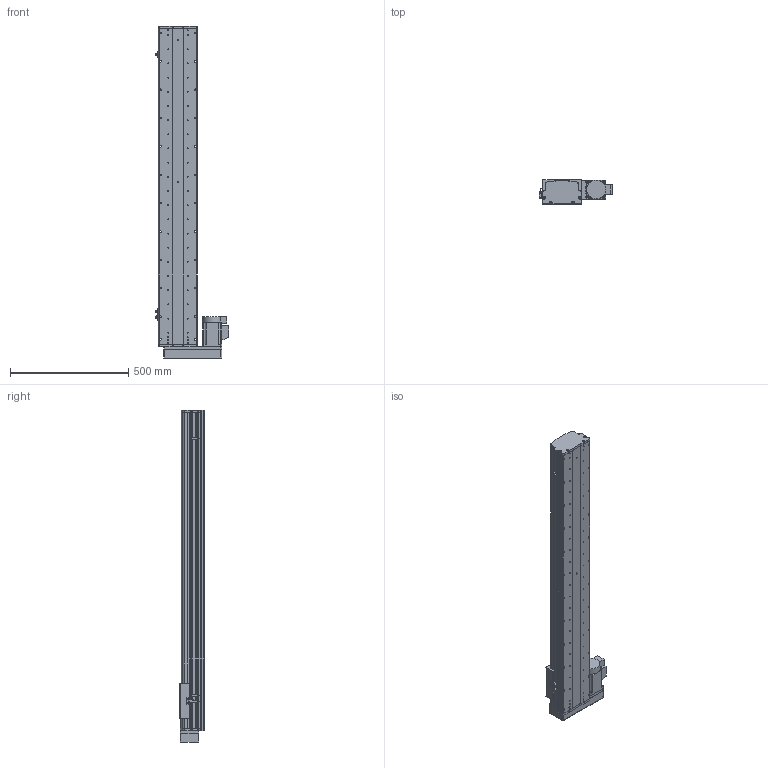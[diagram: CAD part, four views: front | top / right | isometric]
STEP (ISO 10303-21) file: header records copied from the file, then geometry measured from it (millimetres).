
FILE_DESCRIPTION (( 'STEP AP214' ), '1' );
FILE_NAME ('KSD165S-S1100-ML-CM .STEP', '2017-10-17T09:10:07', ( '微软用户' ), ( '微软中国' ), 'SwSTEP 2.0', 'SolidWorks 2014', '' );
FILE_SCHEMA (( 'AUTOMOTIVE_DESIGN' ));
Length unit declared in the file: millimetre
Products named in the file (16): 覜茼え68遵圉猾敕; U倰嫖萇EEㄜSX672; 拸秶雄ん750W侜督萇儂; KSD165模组-丝杆上下左右折前端板; HTPA26S5M250-A-H8丝杆用(内径14）; HTPA26S5M250-A-H8 750W萇儂蚚; 165宽模组马达安装板连板左右折丝杆; 165宽模组保护罩左右折; KSD165模组-防尘盖1-1100行程-最新版; KSD165模组底板-1100行程-最新; KSD165耀郪-佪裝-滅袉菜-3 -; KSD165耀郪-佪裝-滅袉菜-1; U倰嫖萇假蚾璃; KSD165耀郪-綴傷啣1; KSD165模组-丝杆滑动座-最新版; KSD165S-S1100-ML-CM 
Assembly tree (19 placements, depth 2):
  KSD165S-S1100-ML-CM 
    KSD165模组-丝杆滑动座-最新版
    KSD165耀郪-綴傷啣1
    U倰嫖萇假蚾璃  x3
    KSD165耀郪-佪裝-滅袉菜-1
    KSD165耀郪-佪裝-滅袉菜-3 -
    KSD165模组底板-1100行程-最新
    KSD165模组-防尘盖1-1100行程-最新版
    165宽模组保护罩左右折
    165宽模组马达安装板连板左右折丝杆
    HTPA26S5M250-A-H8 750W萇儂蚚
    HTPA26S5M250-A-H8丝杆用(内径14）
    KSD165模组-丝杆上下左右折前端板
    拸秶雄ん750W侜督萇儂
    U倰嫖萇EEㄜSX672  x3
    覜茼え68遵圉猾敕
Bounding box: 311.2 x 104 x 1405.5 mm (x, y, z)
Volume: 8319543.6 mm3; surface area: 1935784.9 mm2
Topology: 20 solids, 20 shells, 1881 faces, 5348 edges, 3499 vertices
Faces by surface type: cylinder 1231, plane 549, cone 101
Entity records: 62323 total; most frequent: CARTESIAN_POINT 13003, DIRECTION 10015, ORIENTED_EDGE 9384, EDGE_CURVE 4692, AXIS2_PLACEMENT_3D 3935, VERTEX_POINT 3091, CIRCLE 2252, VECTOR 2145
